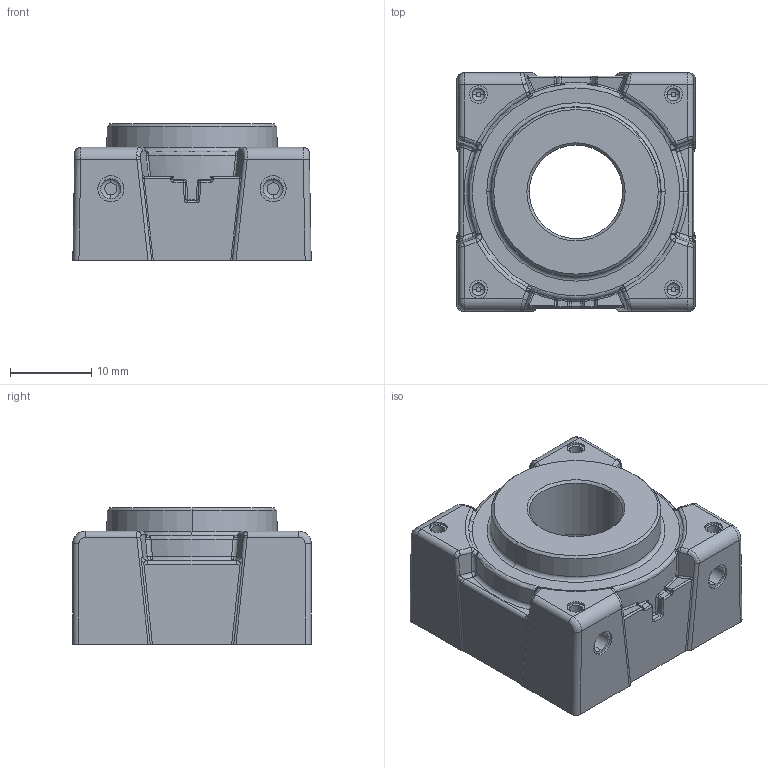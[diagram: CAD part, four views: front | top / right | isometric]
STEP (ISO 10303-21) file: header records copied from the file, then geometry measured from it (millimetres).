
FILE_DESCRIPTION (( 'STEP AP214' ), '1' );
FILE_NAME ('Alvium-S-Mount-Body.STEP', '2020-11-19T09:51:15', ( '' ), ( '' ), 'SwSTEP 2.0', 'SolidWorks 2019', '' );
FILE_SCHEMA (( 'AUTOMOTIVE_DESIGN' ));
Length unit declared in the file: millimetre
Products named in the file (1): Alvium-S-Mount-Body
Bounding box: 29.35 x 29.35 x 16.8 mm (x, y, z)
Volume: 7315.1 mm3; surface area: 5362.4 mm2
Topology: 1 solids, 2 shells, 673 faces, 1623 edges, 944 vertices
Faces by surface type: cylinder 221, plane 156, bspline 146, torus 68, sphere 68, cone 14
Entity records: 25827 total; most frequent: CARTESIAN_POINT 7843, ORIENTED_EDGE 3188, DIRECTION 2928, EDGE_CURVE 1594, AXIS2_PLACEMENT_3D 1177, VERTEX_POINT 944, EDGE_LOOP 696, ADVANCED_FACE 673
